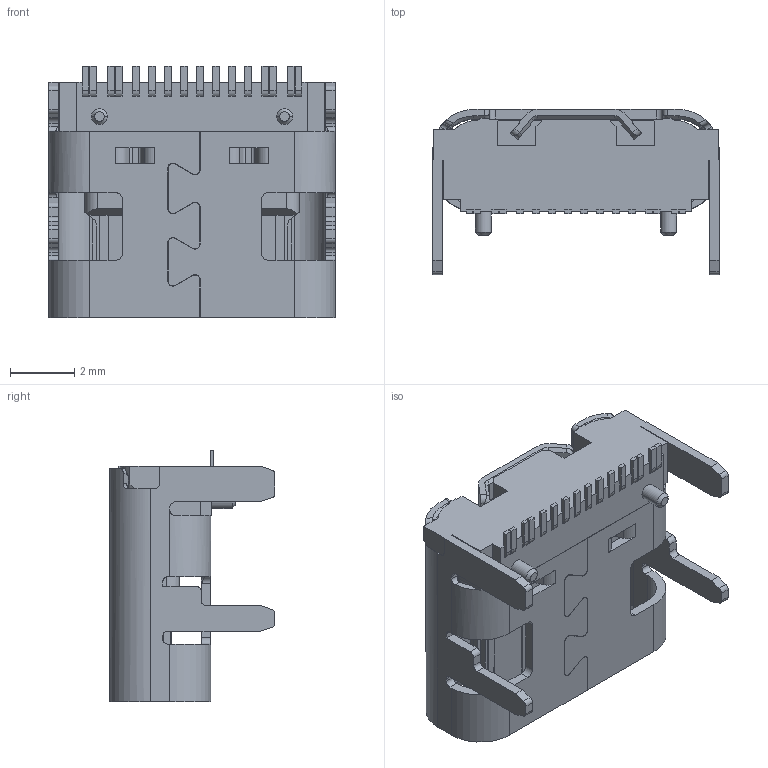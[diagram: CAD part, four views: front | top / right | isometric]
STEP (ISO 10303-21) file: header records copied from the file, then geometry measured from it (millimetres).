
FILE_DESCRIPTION((''),'2;1');
FILE_NAME('ASM0001_ASM','2024-01-27T',('WYH'),(''),'PRO/ENGINEER BY PARAMETRIC TECHNOLOGY CORPORATION, 2013040','PRO/ENGINEER BY PARAMETRIC TECHNOLOGY CORPORATION, 2013040','');
FILE_SCHEMA(('CONFIG_CONTROL_DESIGN'));
Length unit declared in the file: millimetre
Products named in the file (1): ASM0001_ASM
Bounding box: 8.94 x 5.18 x 7.85 mm (x, y, z)
Volume: 116.4 mm3; surface area: 490.3 mm2
Topology: 1 solids, 2 shells, 743 faces, 2167 edges, 1403 vertices
Faces by surface type: plane 533, cylinder 182, cone 22, bspline 6
Entity records: 24990 total; most frequent: CARTESIAN_POINT 5114, ORIENTED_EDGE 4334, DIRECTION 3928, EDGE_CURVE 2167, VECTOR 1710, LINE 1710, VERTEX_POINT 1403, AXIS2_PLACEMENT_3D 1109
